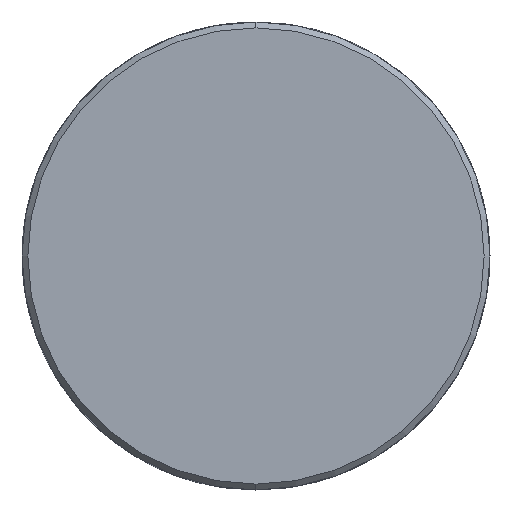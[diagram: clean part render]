
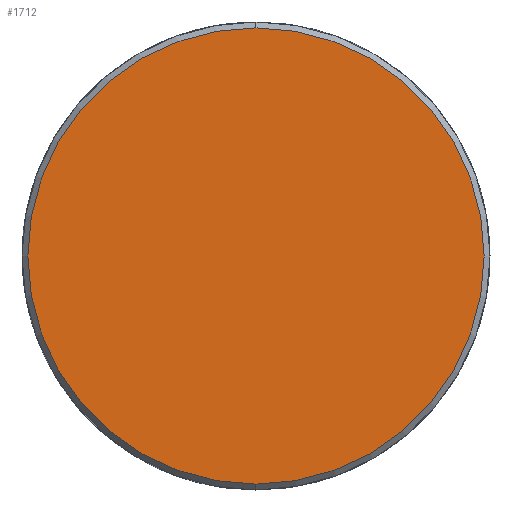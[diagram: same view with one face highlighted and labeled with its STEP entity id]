
A CAD part, left-side view. The second image highlights one B-rep face of the part: STEP entity #1712.
In plain terms, the highlighted planar face has unit normal (-1, 0, 0).
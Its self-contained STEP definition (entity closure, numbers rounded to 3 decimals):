
#100 = AXIS2_PLACEMENT_3D ( 'NONE', #1638, #1632, #1620 ) ;
#769 = EDGE_CURVE ( 'NONE', #1608, #3192, #7762, .T. ) ;
#940 = EDGE_CURVE ( 'NONE', #3192, #1608, #6634, .T. ) ;
#1123 = CARTESIAN_POINT ( 'NONE',  ( 0., 0., 19.5 ) ) ;
#1275 = ORIENTED_EDGE ( 'NONE', *, *, #769, .F. ) ;
#1285 = ORIENTED_EDGE ( 'NONE', *, *, #940, .F. ) ;
#1480 = DIRECTION ( 'NONE',  ( 0., 0., 1. ) ) ;
#1494 = DIRECTION ( 'NONE',  ( -1., 0., 0. ) ) ;
#1496 = CARTESIAN_POINT ( 'NONE',  ( 0., 0., 0. ) ) ;
#1566 = PLANE ( 'NONE',  #7839 ) ;
#1608 = VERTEX_POINT ( 'NONE', #1740 ) ;
#1620 = DIRECTION ( 'NONE',  ( 0., 0., -1. ) ) ;
#1632 = DIRECTION ( 'NONE',  ( 1., 0., 0. ) ) ;
#1638 = CARTESIAN_POINT ( 'NONE',  ( 0., 0., 0. ) ) ;
#1712 = ADVANCED_FACE ( 'NONE', ( #2674 ), #1566, .T. ) ;
#1740 = CARTESIAN_POINT ( 'NONE',  ( 0., 0., -19.5 ) ) ;
#2114 = DIRECTION ( 'NONE',  ( 0., 0., -1. ) ) ;
#2116 = DIRECTION ( 'NONE',  ( 1., 0., 0. ) ) ;
#2674 = FACE_OUTER_BOUND ( 'NONE', #4102, .T. ) ;
#3192 = VERTEX_POINT ( 'NONE', #1123 ) ;
#4102 = EDGE_LOOP ( 'NONE', ( #1275, #1285 ) ) ;
#4194 = AXIS2_PLACEMENT_3D ( 'NONE', #8516, #2116, #2114 ) ;
#6634 = CIRCLE ( 'NONE', #100, 19.5 ) ;
#7762 = CIRCLE ( 'NONE', #4194, 19.5 ) ;
#7839 = AXIS2_PLACEMENT_3D ( 'NONE', #1496, #1494, #1480 ) ;
#8516 = CARTESIAN_POINT ( 'NONE',  ( 0., 0., 0. ) ) ;
